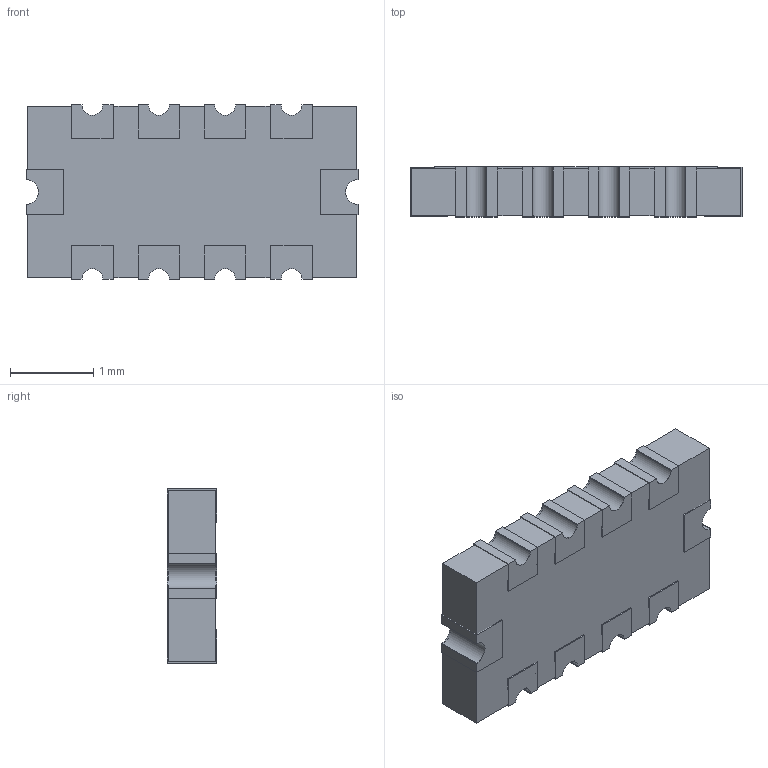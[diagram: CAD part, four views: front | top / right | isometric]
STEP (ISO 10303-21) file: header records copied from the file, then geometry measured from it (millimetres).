
FILE_DESCRIPTION(/* description */ (''),/* implementation_level */ '2;1');
FILE_NAME(/* name */ 'C:\Users\mulla\Documents\Work\SEI Models\Inventor Files\RACF\RACF408M_stp.stp',/* time_stamp */ '2019-08-07T17:30:23-04:00',/* author */ ('mulla'),/* organization */ (''),/* preprocessor_version */ 'ST-DEVELOPER v16.1',/* originating_system */ 'Autodesk Inventor 2016',/* authorisation */ '');
FILE_SCHEMA (('AUTOMOTIVE_DESIGN { 1 0 10303 214 3 1 1 }'));
Length unit declared in the file: millimetre
Products named in the file (1): RACF408M
Bounding box: 4 x 0.6 x 2.1 mm (x, y, z)
Surface area: 48.5 mm2
Topology: 12 solids, 12 shells, 132 faces, 324 edges, 216 vertices
Faces by surface type: plane 112, cylinder 20
Entity records: 4014 total; most frequent: CARTESIAN_POINT 673, ORIENTED_EDGE 648, DIRECTION 630, EDGE_CURVE 324, LINE 284, VECTOR 284, VERTEX_POINT 216, AXIS2_PLACEMENT_3D 173
